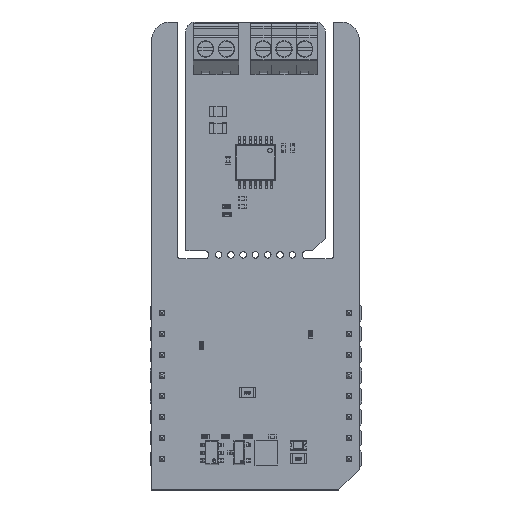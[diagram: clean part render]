
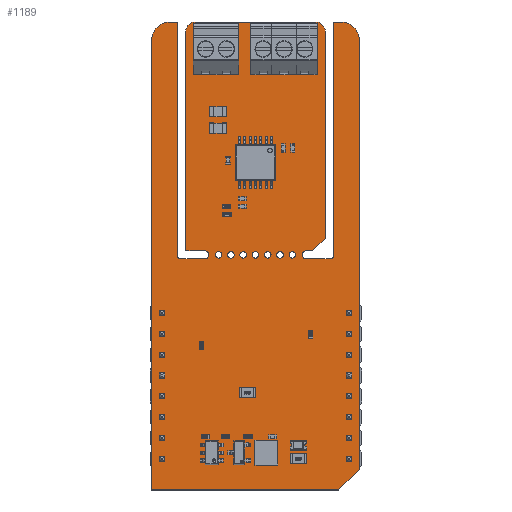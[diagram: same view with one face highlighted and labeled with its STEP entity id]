
A CAD part, top view. The second image highlights one B-rep face of the part: STEP entity #1189.
In plain terms, the highlighted planar face has unit normal (0, 0, 1).
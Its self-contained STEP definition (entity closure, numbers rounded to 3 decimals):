
#152 = VERTEX_POINT('',#153);
#153 = CARTESIAN_POINT('',(1.905,24.8,1.59));
#159 = EDGE_CURVE('',#152,#160,#162,.T.);
#160 = VERTEX_POINT('',#161);
#161 = CARTESIAN_POINT('',(2.305,24.4,1.59));
#162 = CIRCLE('',#163,0.399);
#163 = AXIS2_PLACEMENT_3D('',#164,#165,#166);
#164 = CARTESIAN_POINT('',(2.304,24.799,1.59));
#165 = DIRECTION('',(0.,0.,1.));
#166 = DIRECTION('',(-1.,0.001,0.));
#192 = EDGE_CURVE('',#160,#193,#195,.T.);
#193 = VERTEX_POINT('',#194);
#194 = CARTESIAN_POINT('',(5.23,24.4,1.59));
#195 = LINE('',#196,#197);
#196 = CARTESIAN_POINT('',(2.305,24.4,1.59));
#197 = VECTOR('',#198,1.);
#198 = DIRECTION('',(1.,0.,0.));
#223 = EDGE_CURVE('',#193,#224,#226,.T.);
#224 = VERTEX_POINT('',#225);
#225 = CARTESIAN_POINT('',(5.23,25.4,1.59));
#226 = CIRCLE('',#227,0.5);
#227 = AXIS2_PLACEMENT_3D('',#228,#229,#230);
#228 = CARTESIAN_POINT('',(5.23,24.9,1.59));
#229 = DIRECTION('',(0.,0.,1.));
#230 = DIRECTION('',(-0.,-1.,0.));
#256 = EDGE_CURVE('',#224,#257,#259,.T.);
#257 = VERTEX_POINT('',#258);
#258 = CARTESIAN_POINT('',(2.921,25.4,1.59));
#259 = LINE('',#260,#261);
#260 = CARTESIAN_POINT('',(5.23,25.4,1.59));
#261 = VECTOR('',#262,1.);
#262 = DIRECTION('',(-1.,0.,0.));
#287 = EDGE_CURVE('',#257,#288,#290,.T.);
#288 = VERTEX_POINT('',#289);
#289 = CARTESIAN_POINT('',(2.921,52.197,1.59));
#290 = LINE('',#291,#292);
#291 = CARTESIAN_POINT('',(2.921,25.4,1.59));
#292 = VECTOR('',#293,1.);
#293 = DIRECTION('',(0.,1.,0.));
#318 = EDGE_CURVE('',#288,#319,#321,.T.);
#319 = VERTEX_POINT('',#320);
#320 = CARTESIAN_POINT('',(4.064,53.34,1.59));
#321 = CIRCLE('',#322,1.144);
#322 = AXIS2_PLACEMENT_3D('',#323,#324,#325);
#323 = CARTESIAN_POINT('',(4.065,52.196,1.59));
#324 = DIRECTION('',(0.,0.,-1.));
#325 = DIRECTION('',(-1.,0.001,0.));
#351 = EDGE_CURVE('',#319,#352,#354,.T.);
#352 = VERTEX_POINT('',#353);
#353 = CARTESIAN_POINT('',(18.796,53.34,1.59));
#354 = LINE('',#355,#356);
#355 = CARTESIAN_POINT('',(4.064,53.34,1.59));
#356 = VECTOR('',#357,1.);
#357 = DIRECTION('',(1.,0.,0.));
#382 = EDGE_CURVE('',#352,#383,#385,.T.);
#383 = VERTEX_POINT('',#384);
#384 = CARTESIAN_POINT('',(19.939,52.197,1.59));
#385 = CIRCLE('',#386,1.144);
#386 = AXIS2_PLACEMENT_3D('',#387,#388,#389);
#387 = CARTESIAN_POINT('',(18.795,52.196,1.59));
#388 = DIRECTION('',(0.,0.,-1.));
#389 = DIRECTION('',(0.001,1.,0.));
#415 = EDGE_CURVE('',#383,#416,#418,.T.);
#416 = VERTEX_POINT('',#417);
#417 = CARTESIAN_POINT('',(19.939,26.924,1.59));
#418 = LINE('',#419,#420);
#419 = CARTESIAN_POINT('',(19.939,52.197,1.59));
#420 = VECTOR('',#421,1.);
#421 = DIRECTION('',(0.,-1.,0.));
#446 = EDGE_CURVE('',#416,#447,#449,.T.);
#447 = VERTEX_POINT('',#448);
#448 = CARTESIAN_POINT('',(18.415,25.4,1.59));
#449 = LINE('',#450,#451);
#450 = CARTESIAN_POINT('',(19.939,26.924,1.59));
#451 = VECTOR('',#452,1.);
#452 = DIRECTION('',(-0.707,-0.707,0.));
#477 = EDGE_CURVE('',#447,#478,#480,.T.);
#478 = VERTEX_POINT('',#479);
#479 = CARTESIAN_POINT('',(17.63,25.4,1.59));
#480 = LINE('',#481,#482);
#481 = CARTESIAN_POINT('',(18.415,25.4,1.59));
#482 = VECTOR('',#483,1.);
#483 = DIRECTION('',(-1.,0.,0.));
#508 = EDGE_CURVE('',#478,#509,#511,.T.);
#509 = VERTEX_POINT('',#510);
#510 = CARTESIAN_POINT('',(17.63,24.4,1.59));
#511 = CIRCLE('',#512,0.5);
#512 = AXIS2_PLACEMENT_3D('',#513,#514,#515);
#513 = CARTESIAN_POINT('',(17.63,24.9,1.59));
#514 = DIRECTION('',(0.,-0.,1.));
#515 = DIRECTION('',(0.,1.,0.));
#541 = EDGE_CURVE('',#509,#542,#544,.T.);
#542 = VERTEX_POINT('',#543);
#543 = CARTESIAN_POINT('',(20.555,24.4,1.59));
#544 = LINE('',#545,#546);
#545 = CARTESIAN_POINT('',(17.63,24.4,1.59));
#546 = VECTOR('',#547,1.);
#547 = DIRECTION('',(1.,0.,0.));
#572 = EDGE_CURVE('',#542,#573,#575,.T.);
#573 = VERTEX_POINT('',#574);
#574 = CARTESIAN_POINT('',(20.955,24.8,1.59));
#575 = CIRCLE('',#576,0.399);
#576 = AXIS2_PLACEMENT_3D('',#577,#578,#579);
#577 = CARTESIAN_POINT('',(20.556,24.799,1.59));
#578 = DIRECTION('',(0.,0.,1.));
#579 = DIRECTION('',(-0.001,-1.,0.));
#605 = EDGE_CURVE('',#573,#606,#608,.T.);
#606 = VERTEX_POINT('',#607);
#607 = CARTESIAN_POINT('',(20.955,53.34,1.59));
#608 = LINE('',#609,#610);
#609 = CARTESIAN_POINT('',(20.955,24.8,1.59));
#610 = VECTOR('',#611,1.);
#611 = DIRECTION('',(0.,1.,0.));
#636 = EDGE_CURVE('',#606,#637,#639,.T.);
#637 = VERTEX_POINT('',#638);
#638 = CARTESIAN_POINT('',(21.844,53.34,1.59));
#639 = LINE('',#640,#641);
#640 = CARTESIAN_POINT('',(20.955,53.34,1.59));
#641 = VECTOR('',#642,1.);
#642 = DIRECTION('',(1.,0.,0.));
#667 = EDGE_CURVE('',#637,#668,#670,.T.);
#668 = VERTEX_POINT('',#669);
#669 = CARTESIAN_POINT('',(24.13,51.054,1.59));
#670 = CIRCLE('',#671,2.288);
#671 = AXIS2_PLACEMENT_3D('',#672,#673,#674);
#672 = CARTESIAN_POINT('',(21.842,51.052,1.59));
#673 = DIRECTION('',(0.,0.,-1.));
#674 = DIRECTION('',(0.001,1.,0.));
#700 = EDGE_CURVE('',#668,#701,#703,.T.);
#701 = VERTEX_POINT('',#702);
#702 = CARTESIAN_POINT('',(24.13,-1.27,1.59));
#703 = LINE('',#704,#705);
#704 = CARTESIAN_POINT('',(24.13,51.054,1.59));
#705 = VECTOR('',#706,1.);
#706 = DIRECTION('',(0.,-1.,0.));
#731 = EDGE_CURVE('',#701,#732,#734,.T.);
#732 = VERTEX_POINT('',#733);
#733 = CARTESIAN_POINT('',(21.59,-3.81,1.59));
#734 = LINE('',#735,#736);
#735 = CARTESIAN_POINT('',(24.13,-1.27,1.59));
#736 = VECTOR('',#737,1.);
#737 = DIRECTION('',(-0.707,-0.707,0.));
#762 = EDGE_CURVE('',#732,#763,#765,.T.);
#763 = VERTEX_POINT('',#764);
#764 = CARTESIAN_POINT('',(-1.27,-3.81,1.59));
#765 = LINE('',#766,#767);
#766 = CARTESIAN_POINT('',(21.59,-3.81,1.59));
#767 = VECTOR('',#768,1.);
#768 = DIRECTION('',(-1.,0.,0.));
#793 = EDGE_CURVE('',#763,#794,#796,.T.);
#794 = VERTEX_POINT('',#795);
#795 = CARTESIAN_POINT('',(-1.27,51.054,1.59));
#796 = LINE('',#797,#798);
#797 = CARTESIAN_POINT('',(-1.27,-3.81,1.59));
#798 = VECTOR('',#799,1.);
#799 = DIRECTION('',(0.,1.,0.));
#824 = EDGE_CURVE('',#794,#825,#827,.T.);
#825 = VERTEX_POINT('',#826);
#826 = CARTESIAN_POINT('',(1.016,53.34,1.59));
#827 = CIRCLE('',#828,2.288);
#828 = AXIS2_PLACEMENT_3D('',#829,#830,#831);
#829 = CARTESIAN_POINT('',(1.018,51.052,1.59));
#830 = DIRECTION('',(0.,0.,-1.));
#831 = DIRECTION('',(-1.,0.001,0.));
#857 = EDGE_CURVE('',#825,#858,#860,.T.);
#858 = VERTEX_POINT('',#859);
#859 = CARTESIAN_POINT('',(1.905,53.34,1.59));
#860 = LINE('',#861,#862);
#861 = CARTESIAN_POINT('',(1.016,53.34,1.59));
#862 = VECTOR('',#863,1.);
#863 = DIRECTION('',(1.,0.,0.));
#888 = EDGE_CURVE('',#858,#152,#889,.T.);
#889 = LINE('',#890,#891);
#890 = CARTESIAN_POINT('',(1.905,53.34,1.59));
#891 = VECTOR('',#892,1.);
#892 = DIRECTION('',(0.,-1.,0.));
#912 = VERTEX_POINT('',#913);
#913 = CARTESIAN_POINT('',(7.33,24.9,1.59));
#919 = EDGE_CURVE('',#912,#912,#920,.T.);
#920 = CIRCLE('',#921,0.4);
#921 = AXIS2_PLACEMENT_3D('',#922,#923,#924);
#922 = CARTESIAN_POINT('',(6.93,24.9,1.59));
#923 = DIRECTION('',(0.,0.,1.));
#924 = DIRECTION('',(1.,0.,-0.));
#945 = VERTEX_POINT('',#946);
#946 = CARTESIAN_POINT('',(8.83,24.9,1.59));
#952 = EDGE_CURVE('',#945,#945,#953,.T.);
#953 = CIRCLE('',#954,0.4);
#954 = AXIS2_PLACEMENT_3D('',#955,#956,#957);
#955 = CARTESIAN_POINT('',(8.43,24.9,1.59));
#956 = DIRECTION('',(0.,0.,1.));
#957 = DIRECTION('',(1.,0.,-0.));
#978 = VERTEX_POINT('',#979);
#979 = CARTESIAN_POINT('',(10.33,24.9,1.59));
#985 = EDGE_CURVE('',#978,#978,#986,.T.);
#986 = CIRCLE('',#987,0.4);
#987 = AXIS2_PLACEMENT_3D('',#988,#989,#990);
#988 = CARTESIAN_POINT('',(9.93,24.9,1.59));
#989 = DIRECTION('',(0.,0.,1.));
#990 = DIRECTION('',(1.,0.,-0.));
#1011 = VERTEX_POINT('',#1012);
#1012 = CARTESIAN_POINT('',(14.83,24.9,1.59));
#1018 = EDGE_CURVE('',#1011,#1011,#1019,.T.);
#1019 = CIRCLE('',#1020,0.4);
#1020 = AXIS2_PLACEMENT_3D('',#1021,#1022,#1023);
#1021 = CARTESIAN_POINT('',(14.43,24.9,1.59));
#1022 = DIRECTION('',(0.,0.,1.));
#1023 = DIRECTION('',(1.,0.,-0.));
#1044 = VERTEX_POINT('',#1045);
#1045 = CARTESIAN_POINT('',(16.33,24.9,1.59));
#1051 = EDGE_CURVE('',#1044,#1044,#1052,.T.);
#1052 = CIRCLE('',#1053,0.4);
#1053 = AXIS2_PLACEMENT_3D('',#1054,#1055,#1056);
#1054 = CARTESIAN_POINT('',(15.93,24.9,1.59));
#1055 = DIRECTION('',(0.,0.,1.));
#1056 = DIRECTION('',(1.,0.,-0.));
#1077 = VERTEX_POINT('',#1078);
#1078 = CARTESIAN_POINT('',(11.83,24.9,1.59));
#1084 = EDGE_CURVE('',#1077,#1077,#1085,.T.);
#1085 = CIRCLE('',#1086,0.4);
#1086 = AXIS2_PLACEMENT_3D('',#1087,#1088,#1089);
#1087 = CARTESIAN_POINT('',(11.43,24.9,1.59));
#1088 = DIRECTION('',(0.,0.,1.));
#1089 = DIRECTION('',(1.,0.,-0.));
#1110 = VERTEX_POINT('',#1111);
#1111 = CARTESIAN_POINT('',(13.33,24.9,1.59));
#1117 = EDGE_CURVE('',#1110,#1110,#1118,.T.);
#1118 = CIRCLE('',#1119,0.4);
#1119 = AXIS2_PLACEMENT_3D('',#1120,#1121,#1122);
#1120 = CARTESIAN_POINT('',(12.93,24.9,1.59));
#1121 = DIRECTION('',(0.,0.,1.));
#1122 = DIRECTION('',(1.,0.,-0.));
#1189 = ADVANCED_FACE('',(#1190,#1216,#1219,#1222,#1225,#1228,#1231,
    #1234),#1237,.F.);
#1190 = FACE_BOUND('',#1191,.F.);
#1191 = EDGE_LOOP('',(#1192,#1193,#1194,#1195,#1196,#1197,#1198,#1199,
    #1200,#1201,#1202,#1203,#1204,#1205,#1206,#1207,#1208,#1209,#1210,
    #1211,#1212,#1213,#1214,#1215));
#1192 = ORIENTED_EDGE('',*,*,#159,.T.);
#1193 = ORIENTED_EDGE('',*,*,#192,.T.);
#1194 = ORIENTED_EDGE('',*,*,#223,.T.);
#1195 = ORIENTED_EDGE('',*,*,#256,.T.);
#1196 = ORIENTED_EDGE('',*,*,#287,.T.);
#1197 = ORIENTED_EDGE('',*,*,#318,.T.);
#1198 = ORIENTED_EDGE('',*,*,#351,.T.);
#1199 = ORIENTED_EDGE('',*,*,#382,.T.);
#1200 = ORIENTED_EDGE('',*,*,#415,.T.);
#1201 = ORIENTED_EDGE('',*,*,#446,.T.);
#1202 = ORIENTED_EDGE('',*,*,#477,.T.);
#1203 = ORIENTED_EDGE('',*,*,#508,.T.);
#1204 = ORIENTED_EDGE('',*,*,#541,.T.);
#1205 = ORIENTED_EDGE('',*,*,#572,.T.);
#1206 = ORIENTED_EDGE('',*,*,#605,.T.);
#1207 = ORIENTED_EDGE('',*,*,#636,.T.);
#1208 = ORIENTED_EDGE('',*,*,#667,.T.);
#1209 = ORIENTED_EDGE('',*,*,#700,.T.);
#1210 = ORIENTED_EDGE('',*,*,#731,.T.);
#1211 = ORIENTED_EDGE('',*,*,#762,.T.);
#1212 = ORIENTED_EDGE('',*,*,#793,.T.);
#1213 = ORIENTED_EDGE('',*,*,#824,.T.);
#1214 = ORIENTED_EDGE('',*,*,#857,.T.);
#1215 = ORIENTED_EDGE('',*,*,#888,.T.);
#1216 = FACE_BOUND('',#1217,.F.);
#1217 = EDGE_LOOP('',(#1218));
#1218 = ORIENTED_EDGE('',*,*,#919,.T.);
#1219 = FACE_BOUND('',#1220,.F.);
#1220 = EDGE_LOOP('',(#1221));
#1221 = ORIENTED_EDGE('',*,*,#952,.T.);
#1222 = FACE_BOUND('',#1223,.F.);
#1223 = EDGE_LOOP('',(#1224));
#1224 = ORIENTED_EDGE('',*,*,#985,.T.);
#1225 = FACE_BOUND('',#1226,.F.);
#1226 = EDGE_LOOP('',(#1227));
#1227 = ORIENTED_EDGE('',*,*,#1018,.T.);
#1228 = FACE_BOUND('',#1229,.F.);
#1229 = EDGE_LOOP('',(#1230));
#1230 = ORIENTED_EDGE('',*,*,#1051,.T.);
#1231 = FACE_BOUND('',#1232,.F.);
#1232 = EDGE_LOOP('',(#1233));
#1233 = ORIENTED_EDGE('',*,*,#1084,.T.);
#1234 = FACE_BOUND('',#1235,.F.);
#1235 = EDGE_LOOP('',(#1236));
#1236 = ORIENTED_EDGE('',*,*,#1117,.T.);
#1237 = PLANE('',#1238);
#1238 = AXIS2_PLACEMENT_3D('',#1239,#1240,#1241);
#1239 = CARTESIAN_POINT('',(11.331,30.13,1.59));
#1240 = DIRECTION('',(-0.,-0.,-1.));
#1241 = DIRECTION('',(-1.,0.,0.));
